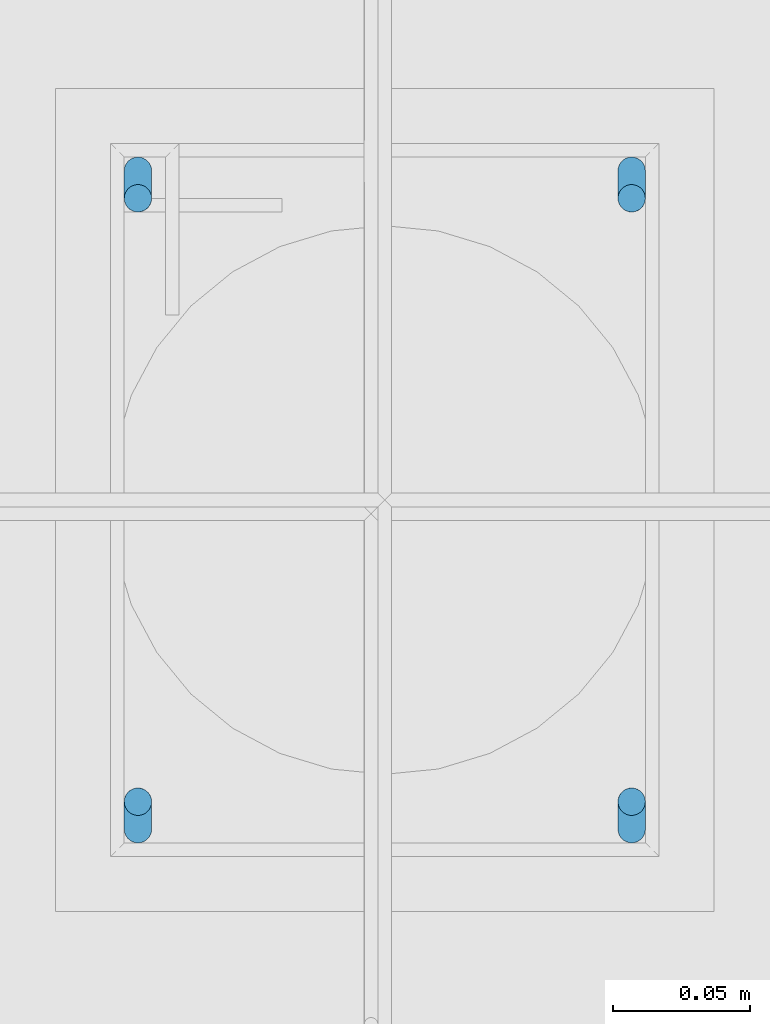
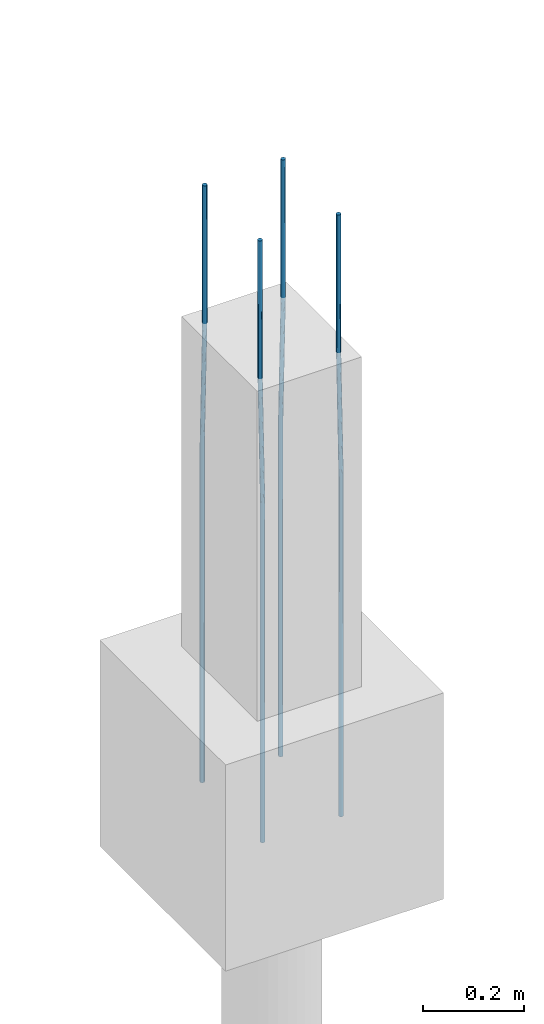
# One storey, part 32 of 119: 4 reinforcing bars.
"""IFC4 building model written with IfcOpenShell, lengths in centimetres."""

from ifc_helpers import new_model, entity, si_unit, derived_unit, frame, origin_with_axes, place, context, project, spatial, element, save


model = new_model("IFC4")

# Units and contexts
model_context = context("Model", 3, precision=1e-05, world=origin_with_axes(), identifier="Body")
ifc_project = project(units=[si_unit("LENGTHUNIT", "METRE", prefix="CENTI"), si_unit("VOLUMEUNIT", "CUBIC_METRE"), si_unit("AREAUNIT", "SQUARE_METRE"), si_unit("POWERUNIT", "WATT"), si_unit("LUMINOUSFLUXUNIT", "LUMEN"), si_unit("ELECTRICCURRENTUNIT", "AMPERE"), si_unit("PRESSUREUNIT", "PASCAL", prefix="KILO"), si_unit("MASSUNIT", "GRAM", prefix="KILO"), si_unit("PLANEANGLEUNIT", "RADIAN"), derived_unit("VOLUMETRICFLOWRATEUNIT", [(si_unit("LENGTHUNIT", "METRE"), 3), (si_unit("TIMEUNIT", "SECOND"), -1)])], contexts=[model_context])

# Site, building, storey
site_placement = place(None, frame((-4000.0, 0.0, 0.0), z_axis=(0.0, 0.0, 1.0), x_axis=(1.0, 0.0, 0.0)))
site = spatial("IfcSite", under=ifc_project, at=site_placement, Name="PADRÃO")
building_placement = place(site_placement, frame((0.0, 0.0, -14.0)))
building = spatial("IfcBuilding", under=site, at=building_placement, Name="CRECHE PRÉ-ESCOLA TIPO 2")
storey_placement = place(building_placement, origin_with_axes())
storey = spatial("IfcBuildingStorey", under=building, at=storey_placement, Name="FUNDAÇÃO", CompositionType="ELEMENT", Elevation=-14.0)

# Reinforcing bars
reinforcing_bar_1_placement = place(storey_placement, frame((3136.02, 2598.02, 33.3573001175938), z_axis=(0.0, 0.0, 1.0), x_axis=(1.0, 0.0, 0.0)))
element("IfcReinforcingBar", 1, at=reinforcing_bar_1_placement, inside=storey, Name="P74 - Longitudinal", BarLength=0.0, CrossSectionArea=7.853981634e-05, NominalDiameter=1.0, PredefinedType="MAIN", context=model_context, shape_type="AdvancedSweptSolid", body=[
    entity("IfcSweptDiskSolid", entity("IfcCompositeCurve", [entity("IfcCompositeCurveSegment", "CONTINUOUS", True, entity("IfcPolyline", [entity("IfcCartesianPoint", [0.0, 0.5, -145.357300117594]), entity("IfcCartesianPoint", [0.0, 0.5, -63.3573001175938])])), entity("IfcCompositeCurveSegment", "CONTINUOUS", True, entity("IfcPolyline", [entity("IfcCartesianPoint", [0.0, 0.5, -63.3573001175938]), entity("IfcCartesianPoint", [0.0, -0.5, -33.3573001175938])])), entity("IfcCompositeCurveSegment", "CONTINUOUS", True, entity("IfcPolyline", [entity("IfcCartesianPoint", [0.0, -0.5, -33.3573001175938]), entity("IfcCartesianPoint", [0.0, -0.5, 0.0])]))], False), 0.5),
])
for number, where, z_axis, x_axis, name in (
    (2, (3136.02, 2575.02, 33.3573001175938), (0.0, 0.0, 1.0), (1.0, 0.0, 0.0), "P74 - Longitudinal"),
    (3, (3154.02, 2575.02, 33.3573001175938), (0.0, 0.0, 1.0), (1.0, 0.0, 0.0), "P74 - Longitudinal"),
):
    element("IfcReinforcingBar", number, at=place(storey_placement, frame(where, z_axis=z_axis, x_axis=x_axis)), inside=storey, Name=name, BarLength=0.0, CrossSectionArea=7.853981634e-05, NominalDiameter=1.0, PredefinedType="MAIN", context=model_context, shape_type="AdvancedSweptSolid", body=[
        entity("IfcSweptDiskSolid", entity("IfcCompositeCurve", [entity("IfcCompositeCurveSegment", "CONTINUOUS", True, entity("IfcPolyline", [entity("IfcCartesianPoint", [0.0, -0.5, -145.357300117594]), entity("IfcCartesianPoint", [0.0, -0.5, -63.3573001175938])])), entity("IfcCompositeCurveSegment", "CONTINUOUS", True, entity("IfcPolyline", [entity("IfcCartesianPoint", [0.0, -0.5, -63.3573001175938]), entity("IfcCartesianPoint", [0.0, 0.5, -33.3573001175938])])), entity("IfcCompositeCurveSegment", "CONTINUOUS", True, entity("IfcPolyline", [entity("IfcCartesianPoint", [0.0, 0.5, -33.3573001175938]), entity("IfcCartesianPoint", [0.0, 0.5, 0.0])]))], False), 0.5),
    ])
reinforcing_bar_2_placement = place(storey_placement, frame((3154.02, 2598.02, 33.3573001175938), z_axis=(0.0, 0.0, 1.0), x_axis=(1.0, 0.0, 0.0)))
element("IfcReinforcingBar", 4, at=reinforcing_bar_2_placement, inside=storey, Name="P74 - Longitudinal", BarLength=0.0, CrossSectionArea=7.853981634e-05, NominalDiameter=1.0, PredefinedType="MAIN", context=model_context, shape_type="AdvancedSweptSolid", body=[
    entity("IfcSweptDiskSolid", entity("IfcCompositeCurve", [entity("IfcCompositeCurveSegment", "CONTINUOUS", True, entity("IfcPolyline", [entity("IfcCartesianPoint", [0.0, 0.5, -145.357300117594]), entity("IfcCartesianPoint", [0.0, 0.5, -63.3573001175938])])), entity("IfcCompositeCurveSegment", "CONTINUOUS", True, entity("IfcPolyline", [entity("IfcCartesianPoint", [0.0, 0.5, -63.3573001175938]), entity("IfcCartesianPoint", [0.0, -0.5, -33.3573001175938])])), entity("IfcCompositeCurveSegment", "CONTINUOUS", True, entity("IfcPolyline", [entity("IfcCartesianPoint", [0.0, -0.5, -33.3573001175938]), entity("IfcCartesianPoint", [0.0, -0.5, 0.0])]))], False), 0.5),
])

save(model, "model.ifc")
